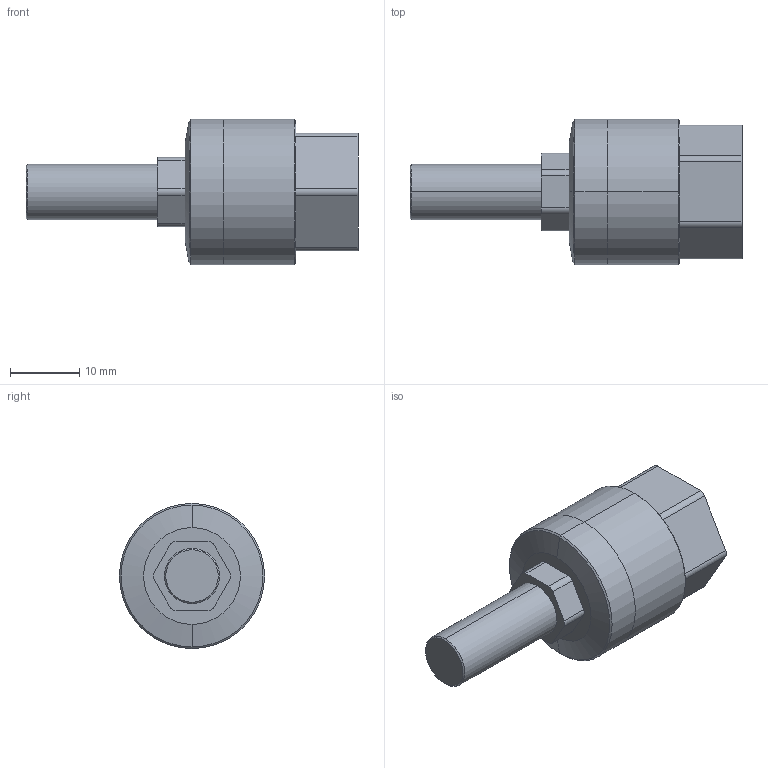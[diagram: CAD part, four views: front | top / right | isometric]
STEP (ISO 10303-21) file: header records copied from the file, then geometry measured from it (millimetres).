
FILE_DESCRIPTION (( 'STEP AP203' ), '1' );
FILE_NAME ('FCM8-1.25.STEP', '2016-03-23T03:40:22', ( 'Sam Lin' ), ( '' ), 'SwSTEP 2.0', 'SolidWorks 2013', '' );
FILE_SCHEMA (( 'CONFIG_CONTROL_DESIGN' ));
Length unit declared in the file: millimetre
Products named in the file (1): FCM8-1.25
Bounding box: 48 x 21 x 21 mm (x, y, z)
Volume: 8337.3 mm3; surface area: 3226.5 mm2
Topology: 1 solids, 1 shells, 47 faces, 114 edges, 71 vertices
Faces by surface type: cylinder 20, plane 17, cone 10
Entity records: 1441 total; most frequent: DIRECTION 254, CARTESIAN_POINT 231, ORIENTED_EDGE 224, EDGE_CURVE 112, AXIS2_PLACEMENT_3D 94, VERTEX_POINT 71, LINE 66, VECTOR 66
